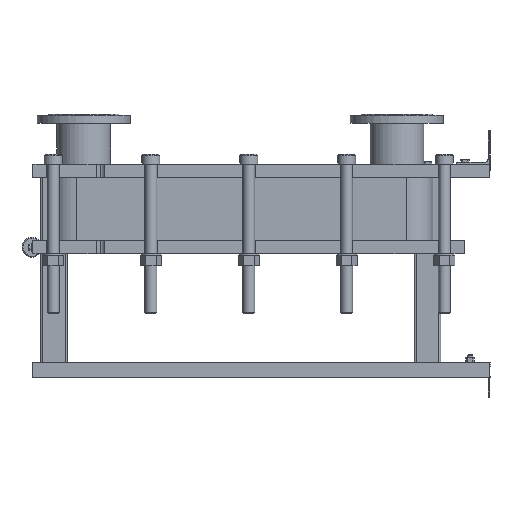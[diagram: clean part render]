
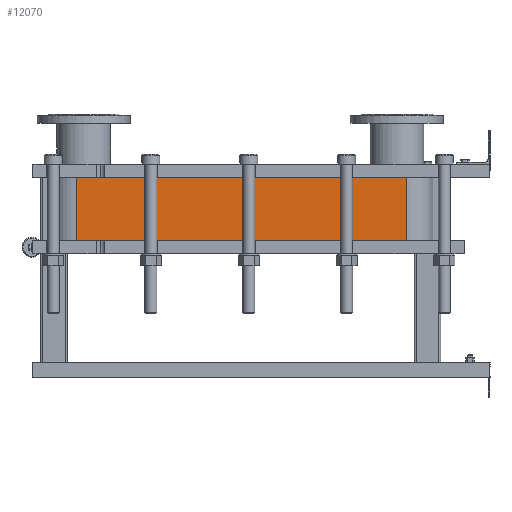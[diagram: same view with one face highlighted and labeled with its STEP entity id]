
A CAD part, left-side view. The second image highlights one B-rep face of the part: STEP entity #12070.
In plain terms, the highlighted planar face has unit normal (-1, 0, 0).
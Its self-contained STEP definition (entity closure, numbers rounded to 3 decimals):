
#1064=LINE('',#21140,#2164);
#1065=LINE('',#21144,#2165);
#1066=LINE('',#21146,#2166);
#1067=LINE('',#21147,#2167);
#2164=VECTOR('',#15790,10.);
#2165=VECTOR('',#15795,10.);
#2166=VECTOR('',#15796,10.);
#2167=VECTOR('',#15797,10.);
#3304=FACE_OUTER_BOUND('',#4091,.T.);
#4091=EDGE_LOOP('',(#9793,#9794,#9795,#9796));
#5677=VERTEX_POINT('',#21137);
#5678=VERTEX_POINT('',#21139);
#5679=VERTEX_POINT('',#21143);
#5680=VERTEX_POINT('',#21145);
#7118=EDGE_CURVE('',#5678,#5677,#1064,.T.);
#7120=EDGE_CURVE('',#5677,#5679,#1065,.T.);
#7121=EDGE_CURVE('',#5680,#5679,#1066,.T.);
#7122=EDGE_CURVE('',#5680,#5678,#1067,.T.);
#9793=ORIENTED_EDGE('',*,*,#7120,.T.);
#9794=ORIENTED_EDGE('',*,*,#7121,.F.);
#9795=ORIENTED_EDGE('',*,*,#7122,.T.);
#9796=ORIENTED_EDGE('',*,*,#7118,.T.);
#11441=PLANE('',#13191);
#12070=ADVANCED_FACE('',(#3304),#11441,.T.);
#13191=AXIS2_PLACEMENT_3D('',#21142,#15793,#15794);
#15790=DIRECTION('',(0.,0.,-1.));
#15793=DIRECTION('center_axis',(-1.,0.,0.));
#15794=DIRECTION('ref_axis',(0.,1.,0.));
#15795=DIRECTION('',(0.,-1.,0.));
#15796=DIRECTION('',(0.,0.,-1.));
#15797=DIRECTION('',(0.,1.,0.));
#21137=CARTESIAN_POINT('',(-248.152,1243.818,-189.75));
#21139=CARTESIAN_POINT('',(-248.152,1243.818,0.));
#21140=CARTESIAN_POINT('',(-248.152,1243.818,0.));
#21142=CARTESIAN_POINT('Origin',(-248.152,251.818,0.));
#21143=CARTESIAN_POINT('',(-248.152,251.818,-189.75));
#21144=CARTESIAN_POINT('',(-248.152,499.818,-189.75));
#21145=CARTESIAN_POINT('',(-248.152,251.818,0.));
#21146=CARTESIAN_POINT('',(-248.152,251.818,0.));
#21147=CARTESIAN_POINT('',(-248.152,251.818,0.));
